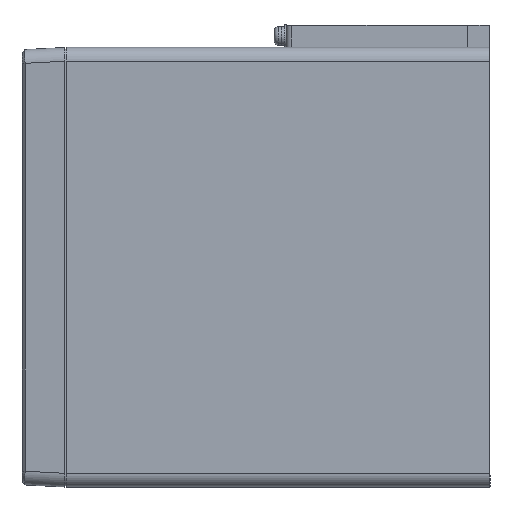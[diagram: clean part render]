
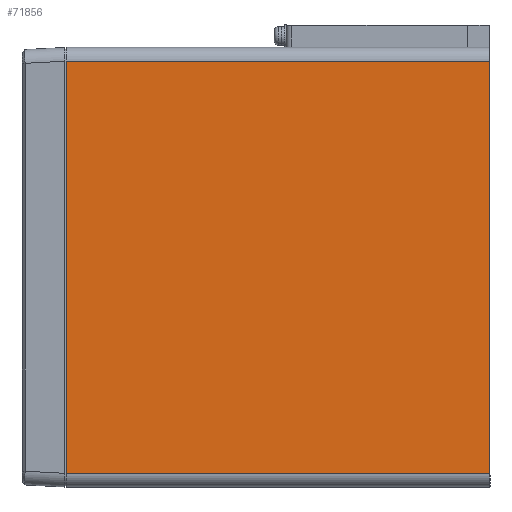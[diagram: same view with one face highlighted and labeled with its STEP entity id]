
A CAD part, left-side view. The second image highlights one B-rep face of the part: STEP entity #71856.
In plain terms, the highlighted planar face has unit normal (-1, 0, 0).
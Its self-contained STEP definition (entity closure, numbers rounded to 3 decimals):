
#69754=CARTESIAN_POINT('',(-30.,-77.155,70.9));
#69755=VERTEX_POINT('',#69754);
#69763=CARTESIAN_POINT('',(-30.,-77.155,-79.1));
#69764=VERTEX_POINT('',#69763);
#69765=CARTESIAN_POINT('',(-30.,-77.155,-79.1));
#69766=DIRECTION('',(0.0,0.0,1.0));
#69767=VECTOR('',#69766,150.0);
#69768=LINE('',#69765,#69767);
#69769=EDGE_CURVE('',#69764,#69755,#69768,.T.);
#71738=CARTESIAN_POINT('',(-30.,76.845,-79.1));
#71739=VERTEX_POINT('',#71738);
#71747=CARTESIAN_POINT('',(-30.,76.845,70.9));
#71748=VERTEX_POINT('',#71747);
#71749=CARTESIAN_POINT('',(-30.,76.845,70.9));
#71750=DIRECTION('',(0.0,0.0,-1.0));
#71751=VECTOR('',#71750,150.);
#71752=LINE('',#71749,#71751);
#71753=EDGE_CURVE('',#71748,#71739,#71752,.T.);
#71835=CARTESIAN_POINT('',(-30.,-0.155,-79.1));
#71836=DIRECTION('',(-1.0,0.0,0.0));
#71837=DIRECTION('',(0.0,0.0,1.0));
#71838=AXIS2_PLACEMENT_3D('',#71835,#71836,#71837);
#71839=PLANE('',#71838);
#71840=CARTESIAN_POINT('',(-30.,76.845,70.9));
#71841=DIRECTION('',(0.0,-1.0,0.0));
#71842=VECTOR('',#71841,154.);
#71843=LINE('',#71840,#71842);
#71844=EDGE_CURVE('',#71748,#69755,#71843,.T.);
#71845=ORIENTED_EDGE('',*,*,#71844,.F.);
#71846=ORIENTED_EDGE('',*,*,#71753,.T.);
#71847=CARTESIAN_POINT('',(-30.,-77.155,-79.1));
#71848=DIRECTION('',(0.0,1.0,0.0));
#71849=VECTOR('',#71848,154.);
#71850=LINE('',#71847,#71849);
#71851=EDGE_CURVE('',#69764,#71739,#71850,.T.);
#71852=ORIENTED_EDGE('',*,*,#71851,.F.);
#71853=ORIENTED_EDGE('',*,*,#69769,.T.);
#71854=EDGE_LOOP('',(#71845,#71846,#71852,#71853));
#71855=FACE_OUTER_BOUND('',#71854,.T.);
#71856=ADVANCED_FACE('',(#71855),#71839,.T.);
